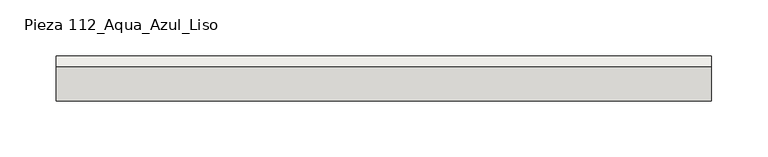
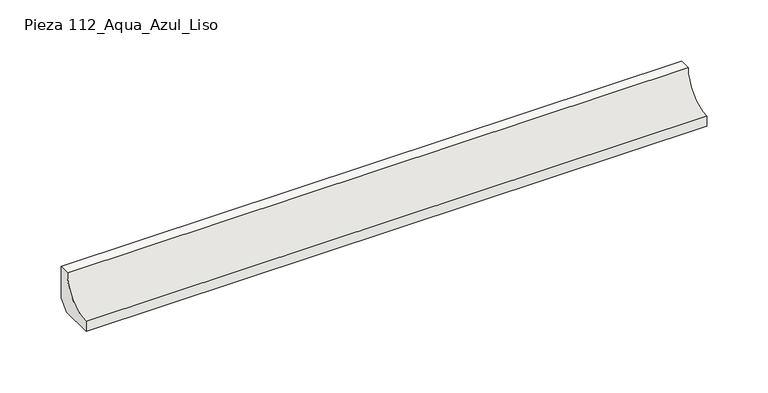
"""IFC4 building model written with IfcOpenShell, lengths in millimetres: slab geometry, ROSA GRES_112 : Pieza 112_Aqua_Azul_Liso."""

import ifcopenshell
import ifcopenshell.guid

model = None  # the IFC model being written
_history = None  # IfcOwnerHistory: only IFC2X3 demands one
_inside = {}  # id of a spatial element -> (the spatial element, [elements in it])
_under = {}  # id of a project, library or spatial element -> (it, [spatial elements below it])
_declared = {}  # id of a project -> (the project, [libraries it declares])
_typed = {}  # id of a type object -> (the type object, [elements of that type])
_made_of = {}  # id of a material, layer set ... -> (it, [elements and type objects made of it])


def new_model(schema):
    """Start an empty IFC model of exactly this schema.

    Asked for "IFC4X3", IfcOpenShell would pick the latest addendum, in which some entities
    have other attributes; the version numbers below select the first issue.
    IFC2X3 requires an IfcOwnerHistory on every rooted entity: one is made here for all.
    """
    global model, _history
    if schema == "IFC4X3":
        model = ifcopenshell.file(schema_version=(4, 3, 0, 0))
    else:
        model = ifcopenshell.file(schema=schema)
    _inside.clear()
    _under.clear()
    _declared.clear()
    _typed.clear()
    _made_of.clear()
    _history = None
    if model.schema == "IFC2X3":
        org = make("IfcOrganization", Name="unknown")
        user = make(
            "IfcPersonAndOrganization",
            ThePerson=make("IfcPerson", FamilyName="unknown"),
            TheOrganization=org,
        )
        app = make(
            "IfcApplication",
            ApplicationDeveloper=org,
            Version="unknown",
            ApplicationFullName="unknown",
            ApplicationIdentifier="unknown",
        )
        _history = make(
            "IfcOwnerHistory",
            OwningUser=user,
            OwningApplication=app,
            ChangeAction="ADDED",
            CreationDate=0,
        )
    return model


def make(cls, **values):
    """One entity of the class cls with the attributes given. An attribute that is None is left unset."""
    return model.create_entity(
        cls, **{name: value for name, value in values.items() if value is not None}
    )


def rooted(cls, **values):
    """An entity with a GlobalId (a new one), such as an element, a storey or a relation."""
    return make(cls, GlobalId=ifcopenshell.guid.new(), OwnerHistory=_history, **values)


def si_unit(unit_type, name, prefix=None):
    """IfcSIUnit, for example si_unit("LENGTHUNIT", "METRE", prefix="MILLI")."""
    return make("IfcSIUnit", UnitType=unit_type, Prefix=prefix, Name=name)


def assignment(units):
    """IfcUnitAssignment: the units of a project."""
    return None if units is None else make("IfcUnitAssignment", Units=units)


def point(xyz):
    """IfcCartesianPoint."""
    return None if xyz is None else make("IfcCartesianPoint", Coordinates=xyz)


def direction(xyz):
    """IfcDirection."""
    return None if xyz is None else make("IfcDirection", DirectionRatios=xyz)


def frame(location, z_axis=None, x_axis=None):
    """IfcAxis2Placement3D, a coordinate frame: its origin and axes. An axis left out is left unset."""
    return make(
        "IfcAxis2Placement3D",
        Location=point(location),
        Axis=direction(z_axis),
        RefDirection=direction(x_axis),
    )


def frame_2d(location, x_axis=None):
    """IfcAxis2Placement2D, a coordinate frame in the plane: its origin and x axis."""
    return make(
        "IfcAxis2Placement2D", Location=point(location), RefDirection=direction(x_axis)
    )


def origin():
    """The frame at (0, 0, 0) with its axes left unset."""
    return frame((0.0, 0.0, 0.0))


def place(relative_to, where):
    """IfcLocalPlacement: puts the frame where relative to a parent placement (None: the world)."""
    return make(
        "IfcLocalPlacement", PlacementRelTo=relative_to, RelativePlacement=where
    )


def context(
    kind, dimensions, precision=None, world=None, true_north=None, identifier=None
):
    """IfcGeometricRepresentationContext, for example the 3D "Model" context."""
    return make(
        "IfcGeometricRepresentationContext",
        ContextIdentifier=identifier,
        ContextType=kind,
        CoordinateSpaceDimension=dimensions,
        Precision=precision,
        WorldCoordinateSystem=world,
        TrueNorth=true_north,
    )


def project(units=None, contexts=None):
    """IfcProject with its units and contexts."""
    return rooted(
        "IfcProject",
        Name="project",
        RepresentationContexts=contexts,
        UnitsInContext=assignment(units),
    )


def spatial(cls, under=None, at=None, **own):
    """A site, building, storey or space (cls), placed at a placement, below another one or the project."""
    s = rooted(cls, ObjectPlacement=at, **own)
    if under is not None:
        _under.setdefault(under.id(), (under, []))[1].append(s)
    return s


def polyline(points):
    """IfcPolyline through the points."""
    return make("IfcPolyline", Points=[point(p) for p in points])


def circle_curve(where, radius):
    """IfcCircle in the frame where."""
    return make("IfcCircle", Position=where, Radius=radius)


def trimmed(basis, trim1, trim2, sense, master):
    """IfcTrimmedCurve: the piece of a basis curve between two trims."""
    return make(
        "IfcTrimmedCurve",
        BasisCurve=basis,
        Trim1=trim1,
        Trim2=trim2,
        SenseAgreement=sense,
        MasterRepresentation=master,
    )


def segment(curve, same_sense, transition):
    """IfcCompositeCurveSegment."""
    return make(
        "IfcCompositeCurveSegment",
        Transition=transition,
        SameSense=same_sense,
        ParentCurve=curve,
    )


def composite_curve(segments, self_intersect=None):
    """IfcCompositeCurve: segments joined end to end."""
    return make("IfcCompositeCurve", Segments=segments, SelfIntersect=self_intersect)


def outline(outer, holes=None, kind="AREA"):
    """IfcArbitraryClosedProfileDef: a profile drawn as a closed curve; with holes, ...WithVoids."""
    if holes is None:
        return make("IfcArbitraryClosedProfileDef", ProfileType=kind, OuterCurve=outer)
    return make(
        "IfcArbitraryProfileDefWithVoids",
        ProfileType=kind,
        OuterCurve=outer,
        InnerCurves=holes,
    )


def extrude(swept, where, along, depth):
    """IfcExtrudedAreaSolid: the profile swept, set in the frame where, extruded along a direction by depth."""
    return make(
        "IfcExtrudedAreaSolid",
        SweptArea=swept,
        Position=where,
        ExtrudedDirection=direction(along),
        Depth=depth,
    )


def shape(context_of_items, identifier, shape_type, items):
    """IfcShapeRepresentation: the items that make up one representation, for example the "Body"."""
    return make(
        "IfcShapeRepresentation",
        ContextOfItems=context_of_items,
        RepresentationIdentifier=identifier,
        RepresentationType=shape_type,
        Items=items,
    )


def source(mapping_origin, context_of_items, identifier, shape_type, items):
    """IfcRepresentationMap: a shape defined once, which mapped items show again and again."""
    return make(
        "IfcRepresentationMap",
        MappingOrigin=mapping_origin,
        MappedRepresentation=shape(context_of_items, identifier, shape_type, items),
    )


def transform(
    local_origin,
    x_axis=None,
    y_axis=None,
    z_axis=None,
    scale=None,
    scale2=None,
    scale3=None,
    uniform=True,
):
    """IfcCartesianTransformationOperator3D, or its non-uniform kind. x_axis, y_axis, z_axis: its Axis1, 2, 3."""
    if uniform:
        return make(
            "IfcCartesianTransformationOperator3D",
            Axis1=direction(x_axis),
            Axis2=direction(y_axis),
            LocalOrigin=point(local_origin),
            Scale=scale,
            Axis3=direction(z_axis),
        )
    return make(
        "IfcCartesianTransformationOperator3DnonUniform",
        Axis1=direction(x_axis),
        Axis2=direction(y_axis),
        LocalOrigin=point(local_origin),
        Scale=scale,
        Axis3=direction(z_axis),
        Scale2=scale2,
        Scale3=scale3,
    )


def mapped(mapping_source, mapping_target):
    """IfcMappedItem: shows the shape of a source again, moved by a transform."""
    return make(
        "IfcMappedItem", MappingSource=mapping_source, MappingTarget=mapping_target
    )


def made_of(thing, what):
    """Note that an element or type object is made of a material, layer set ...; save() writes the relation."""
    if what is not None:
        _made_of.setdefault(what.id(), (what, []))[1].append(thing)
    return thing


def element(
    cls,
    number,
    at=None,
    inside=None,
    cuts=None,
    type_object=None,
    material=None,
    context=None,
    identifier="Body",
    shape_type=None,
    held_by="IfcProductDefinitionShape",
    body=None,
    shapes=None,
    **own,
):
    """One element of the class cls, such as IfcWall. Its Tag is "e" and its number.

    at: its placement. inside: the storey or other place that contains it. cuts: it is an
    opening in that element (IfcRelVoidsElement). A single representation is given by context,
    identifier, shape_type and body (its items); several are given by shapes. held_by: the class
    of the entity that holds the representations. save() writes the other relations.
    """
    e = rooted(cls, Tag="e%d" % number, ObjectPlacement=at, **own)
    if body is not None:
        shapes = [shape(context, identifier, shape_type, body)]
    if shapes is not None:
        e.Representation = make(held_by, Representations=shapes)
    if inside is not None:
        _inside.setdefault(inside.id(), (inside, []))[1].append(e)
    if cuts is not None:
        rooted(
            "IfcRelVoidsElement", RelatingBuildingElement=cuts, RelatedOpeningElement=e
        )
    if type_object is not None:
        _typed.setdefault(type_object.id(), (type_object, []))[1].append(e)
    return made_of(e, material)


def aggregate(whole, parts):
    """IfcRelAggregates: a whole, such as a stair, and the parts it consists of."""
    return rooted("IfcRelAggregates", RelatingObject=whole, RelatedObjects=parts)


def save(model, path):
    """Write the relations noted so far, then the file.

    IfcRelAggregates (storeys below a building ...), IfcRelContainedInSpatialStructure (elements
    in a storey), IfcRelDefinesByType, IfcRelAssociatesMaterial and IfcRelDeclares: one each for
    every whole, place, type object, material and project.
    """
    for whole, parts in _under.values():
        aggregate(whole, parts)
    for where, things in _inside.values():
        rooted(
            "IfcRelContainedInSpatialStructure",
            RelatedElements=things,
            RelatingStructure=where,
        )
    for kind, things in _typed.values():
        rooted("IfcRelDefinesByType", RelatedObjects=things, RelatingType=kind)
    for what, things in _made_of.values():
        rooted("IfcRelAssociatesMaterial", RelatedObjects=things, RelatingMaterial=what)
    for by, libraries in _declared.values():
        rooted("IfcRelDeclares", RelatingContext=by, RelatedDefinitions=libraries)
    model.write(path)


def pieza_112_aqua_azul_liso_353e48f4(model_context):
    return source(origin(), model_context, "Body", "SweptSolid", [
        extrude(outline(composite_curve([segment(polyline([(0.0, 8.7114978), (-8.7114978, 0.0), (-40.0, 0.0), (-40.0, 9.9734114)]), True, "CONTINUOUS"), segment(trimmed(circle_curve(frame_2d((-39.9955547, 39.9955547)), 30.0221435), [point((-40.0, 9.9734114))], [point((-9.9734114, 40.0))], True, "CARTESIAN"), True, "CONTINUOUS"), segment(polyline([(-9.9734114, 40.0), (0.0, 40.0), (0.0, 8.7114978)]), True, "CONTINUOUS")], self_intersect=False)), frame((0.0, 0.0, 0.0), z_axis=(1.0, 0.0, 0.0), x_axis=(0.0, 1.0, 0.0)), (0.0, 0.0, 1.0), 583.1753876),
    ])


if __name__ == "__main__":
    model = new_model("IFC4")
    model_context = context("Model", 3, world=origin())
    ifc_project = project(units=[si_unit("LENGTHUNIT", "METRE", prefix="MILLI")], contexts=[model_context])
    site = spatial("IfcSite", under=ifc_project)
    building = spatial("IfcBuilding", under=site)
    placement = place(None, origin())
    pieza_112_aqua_azul_liso_shape = pieza_112_aqua_azul_liso_353e48f4(model_context)
    element("IfcSlab", 1, ObjectType="ROSA GRES_112 : Pieza 112_Aqua_Azul_Liso", at=placement, inside=building, context=model_context, shape_type="MappedRepresentation", body=[
        mapped(pieza_112_aqua_azul_liso_shape, transform((0.0, 0.0, 0.0), x_axis=(1.0, 0.0, 0.0), y_axis=(0.0, 1.0, 0.0), z_axis=(0.0, 0.0, 1.0))),
    ])
    save(model, "model.ifc")
